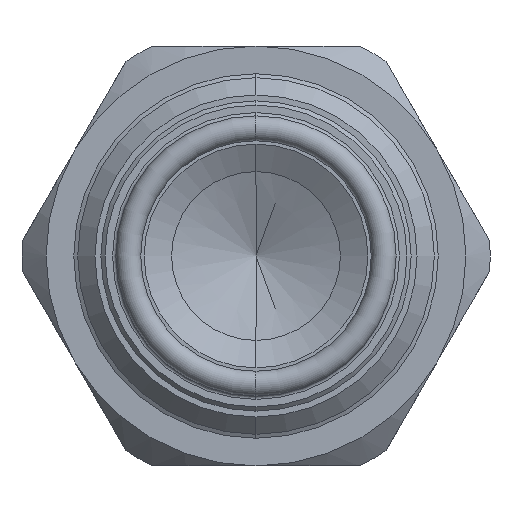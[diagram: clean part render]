
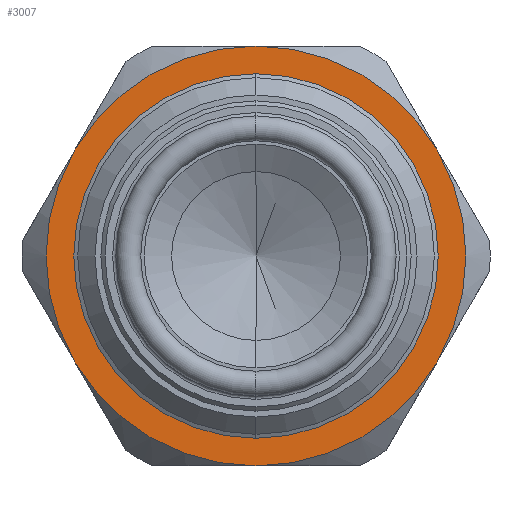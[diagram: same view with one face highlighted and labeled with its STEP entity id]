
A CAD part, left-side view. The second image highlights one B-rep face of the part: STEP entity #3007.
In plain terms, the highlighted planar face has unit normal (-1, 0, 0).
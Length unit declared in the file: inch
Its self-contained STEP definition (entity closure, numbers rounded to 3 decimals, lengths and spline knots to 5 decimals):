
#65 = EDGE_CURVE ( 'NONE', #3672, #3896, #2597, .T. ) ;
#1515 = CARTESIAN_POINT ( 'NONE',  ( 0.7495, 0., 0. ) ) ;
#1519 = FACE_OUTER_BOUND ( 'NONE', #4140, .T. ) ;
#1520 = FACE_BOUND ( 'NONE', #4121, .T. ) ;
#1521 = PLANE ( 'NONE',  #1666 ) ;
#1523 = DIRECTION ( 'NONE',  ( -1., 0., 0. ) ) ;
#1524 = DIRECTION ( 'NONE',  ( 0., 0., 1. ) ) ;
#1666 = AXIS2_PLACEMENT_3D ( 'NONE', #1515, #1523, #1524 ) ;
#1760 = CIRCLE ( 'NONE', #1763, 0.3835 ) ;
#1762 = CIRCLE ( 'NONE', #1765, 0.5 ) ;
#1763 = AXIS2_PLACEMENT_3D ( 'NONE', #1844, #1845, #1846 ) ;
#1765 = AXIS2_PLACEMENT_3D ( 'NONE', #1847, #1848, #1849 ) ;
#1766 = CIRCLE ( 'NONE', #1770, 0.5 ) ;
#1767 = CIRCLE ( 'NONE', #1768, 0.5 ) ;
#1768 = AXIS2_PLACEMENT_3D ( 'NONE', #1850, #1851, #1852 ) ;
#1769 = CIRCLE ( 'NONE', #1772, 0.5 ) ;
#1770 = AXIS2_PLACEMENT_3D ( 'NONE', #1853, #1854, #1855 ) ;
#1771 = CIRCLE ( 'NONE', #1774, 0.5 ) ;
#1772 = AXIS2_PLACEMENT_3D ( 'NONE', #1856, #1857, #1858 ) ;
#1773 = CIRCLE ( 'NONE', #1776, 0.5 ) ;
#1774 = AXIS2_PLACEMENT_3D ( 'NONE', #1859, #1860, #1861 ) ;
#1776 = AXIS2_PLACEMENT_3D ( 'NONE', #1864, #1865, #1866 ) ;
#1844 = CARTESIAN_POINT ( 'NONE',  ( 0.7495, 0., 0. ) ) ;
#1845 = DIRECTION ( 'NONE',  ( -1., 0., 0. ) ) ;
#1846 = DIRECTION ( 'NONE',  ( 0., 0., 1. ) ) ;
#1847 = CARTESIAN_POINT ( 'NONE',  ( 0.7495, 0., 0. ) ) ;
#1848 = DIRECTION ( 'NONE',  ( -1., 0., 0. ) ) ;
#1849 = DIRECTION ( 'NONE',  ( 0., 0., 1. ) ) ;
#1850 = CARTESIAN_POINT ( 'NONE',  ( 0.7495, 0., 0. ) ) ;
#1851 = DIRECTION ( 'NONE',  ( -1., 0., 0. ) ) ;
#1852 = DIRECTION ( 'NONE',  ( 0., 0., 1. ) ) ;
#1853 = CARTESIAN_POINT ( 'NONE',  ( 0.7495, 0., 0. ) ) ;
#1854 = DIRECTION ( 'NONE',  ( -1., 0., 0. ) ) ;
#1855 = DIRECTION ( 'NONE',  ( 0., 0., 1. ) ) ;
#1856 = CARTESIAN_POINT ( 'NONE',  ( 0.7495, 0., 0. ) ) ;
#1857 = DIRECTION ( 'NONE',  ( -1., 0., 0. ) ) ;
#1858 = DIRECTION ( 'NONE',  ( 0., 0., 1. ) ) ;
#1859 = CARTESIAN_POINT ( 'NONE',  ( 0.7495, 0., 0. ) ) ;
#1860 = DIRECTION ( 'NONE',  ( -1., 0., 0. ) ) ;
#1861 = DIRECTION ( 'NONE',  ( 0., 0., 1. ) ) ;
#1864 = CARTESIAN_POINT ( 'NONE',  ( 0.7495, 0., 0. ) ) ;
#1865 = DIRECTION ( 'NONE',  ( -1., 0., 0. ) ) ;
#1866 = DIRECTION ( 'NONE',  ( 0., 0., 1. ) ) ;
#2180 = CARTESIAN_POINT ( 'NONE',  ( 0.7495, 0., 0.3835 ) ) ;
#2335 = CARTESIAN_POINT ( 'NONE',  ( 0.7495, 0., -0.3835 ) ) ;
#2341 = CARTESIAN_POINT ( 'NONE',  ( 0.7495, 0., -0.5 ) ) ;
#2358 = CARTESIAN_POINT ( 'NONE',  ( 0.7495, -0.43301, 0.25 ) ) ;
#2359 = CARTESIAN_POINT ( 'NONE',  ( 0.7495, 0., 0.5 ) ) ;
#2361 = CARTESIAN_POINT ( 'NONE',  ( 0.7495, -0.43301, -0.25 ) ) ;
#2368 = CARTESIAN_POINT ( 'NONE',  ( 0.7495, 0.43301, 0.25 ) ) ;
#2369 = CARTESIAN_POINT ( 'NONE',  ( 0.7495, 0.43301, -0.25 ) ) ;
#2597 = CIRCLE ( 'NONE', #2604, 0.3835 ) ;
#2604 = AXIS2_PLACEMENT_3D ( 'NONE', #3538, #3539, #3540 ) ;
#2706 = ORIENTED_EDGE ( 'NONE', *, *, #3040, .T. ) ;
#2708 = ORIENTED_EDGE ( 'NONE', *, *, #3045, .T. ) ;
#2709 = ORIENTED_EDGE ( 'NONE', *, *, #3041, .T. ) ;
#2714 = ORIENTED_EDGE ( 'NONE', *, *, #65, .F. ) ;
#2717 = ORIENTED_EDGE ( 'NONE', *, *, #3042, .T. ) ;
#2726 = ORIENTED_EDGE ( 'NONE', *, *, #3043, .T. ) ;
#2727 = ORIENTED_EDGE ( 'NONE', *, *, #3044, .T. ) ;
#2729 = ORIENTED_EDGE ( 'NONE', *, *, #3039, .F. ) ;
#3007 = ADVANCED_FACE ( 'NONE', ( #1519, #1520 ), #1521, .T. ) ;
#3039 = EDGE_CURVE ( 'NONE', #3896, #3672, #1760, .T. ) ;
#3040 = EDGE_CURVE ( 'NONE', #5297, #5294, #1762, .T. ) ;
#3041 = EDGE_CURVE ( 'NONE', #5294, #5295, #1767, .T. ) ;
#3042 = EDGE_CURVE ( 'NONE', #5295, #5304, #1766, .T. ) ;
#3043 = EDGE_CURVE ( 'NONE', #5304, #5305, #1769, .T. ) ;
#3044 = EDGE_CURVE ( 'NONE', #5305, #5317, #1771, .T. ) ;
#3045 = EDGE_CURVE ( 'NONE', #5317, #5297, #1773, .T. ) ;
#3538 = CARTESIAN_POINT ( 'NONE',  ( 0.7495, 0., 0. ) ) ;
#3539 = DIRECTION ( 'NONE',  ( -1., 0., 0. ) ) ;
#3540 = DIRECTION ( 'NONE',  ( 0., 0., 1. ) ) ;
#3672 = VERTEX_POINT ( 'NONE', #2180 ) ;
#3896 = VERTEX_POINT ( 'NONE', #2335 ) ;
#4121 = EDGE_LOOP ( 'NONE', ( #2714, #2729 ) ) ;
#4140 = EDGE_LOOP ( 'NONE', ( #2706, #2709, #2717, #2726, #2727, #2708 ) ) ;
#5294 = VERTEX_POINT ( 'NONE', #2358 ) ;
#5295 = VERTEX_POINT ( 'NONE', #2359 ) ;
#5297 = VERTEX_POINT ( 'NONE', #2361 ) ;
#5304 = VERTEX_POINT ( 'NONE', #2368 ) ;
#5305 = VERTEX_POINT ( 'NONE', #2369 ) ;
#5317 = VERTEX_POINT ( 'NONE', #2341 ) ;
